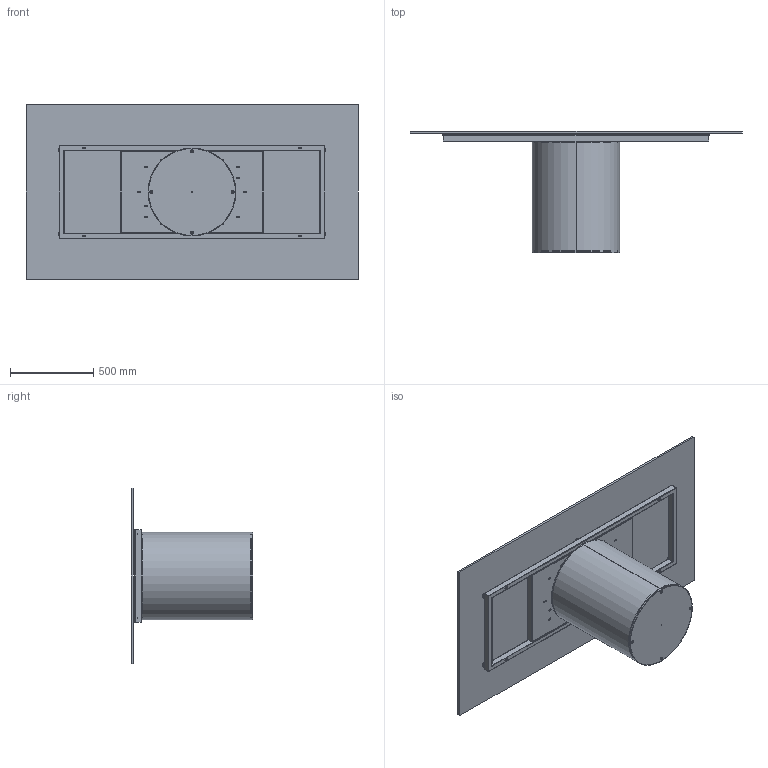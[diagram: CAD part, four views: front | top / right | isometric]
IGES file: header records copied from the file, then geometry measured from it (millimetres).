
Start section: SolidWorks IGES file using analytic representation for surfaces
Global section: file name: Y:\eforma\TECNICO\SOLIDWORKS\E-FORMA\1-TAVOLI\CILINDRO\02 parts\CI21G.IGS; native system: SolidWorks 2022; preprocessor: SolidWorks 2022; author: eforma.tech; date: 240808.092203; units: millimetre
Bounding box: 2000 x 732 x 1060 mm (x, y, z)
Volume: 34131759.6 mm3; surface area: 9425965.9 mm2
Topology: 24 solids, 24 shells, 568 faces, 1330 edges, 786 vertices
Faces by surface type: revolution 312, plane 256
